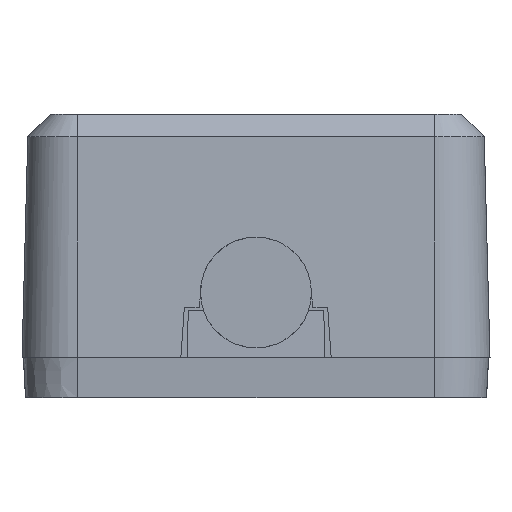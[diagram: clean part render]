
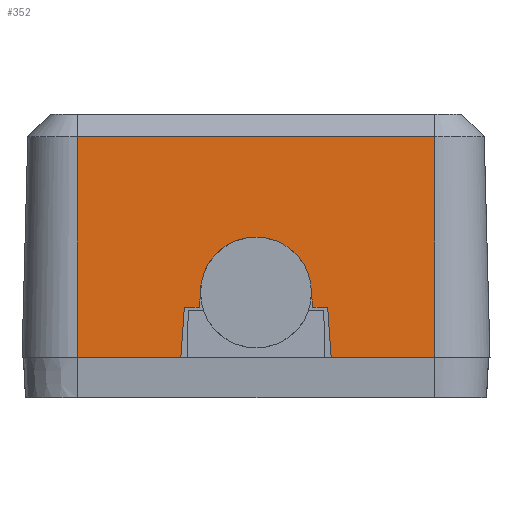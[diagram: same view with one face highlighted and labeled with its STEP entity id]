
A CAD part, left-side view. The second image highlights one B-rep face of the part: STEP entity #352.
In plain terms, the highlighted planar face has unit normal (-1, 0, 0.026).
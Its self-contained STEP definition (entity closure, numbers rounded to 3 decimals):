
#297=ELLIPSE('',#3891,2.051,2.05);
#352=ADVANCED_FACE('',(#705),#550,.F.);
#550=PLANE('',#3892);
#705=FACE_OUTER_BOUND('',#902,.T.);
#902=EDGE_LOOP('',(#1348,#1349,#1350,#1351,#1352,#1353,#1354,#1355,#1356,
#1357,#1358,#1359));
#1348=ORIENTED_EDGE('',*,*,#2686,.T.);
#1349=ORIENTED_EDGE('',*,*,#2687,.T.);
#1350=ORIENTED_EDGE('',*,*,#2688,.T.);
#1351=ORIENTED_EDGE('',*,*,#2580,.F.);
#1352=ORIENTED_EDGE('',*,*,#2689,.F.);
#1353=ORIENTED_EDGE('',*,*,#2690,.T.);
#1354=ORIENTED_EDGE('',*,*,#2691,.F.);
#1355=ORIENTED_EDGE('',*,*,#2692,.F.);
#1356=ORIENTED_EDGE('',*,*,#2693,.T.);
#1357=ORIENTED_EDGE('',*,*,#2694,.T.);
#1358=ORIENTED_EDGE('',*,*,#2695,.T.);
#1359=ORIENTED_EDGE('',*,*,#2576,.F.);
#2204=VERTEX_POINT('',#5243);
#2205=VERTEX_POINT('',#5245);
#2208=VERTEX_POINT('',#5251);
#2209=VERTEX_POINT('',#5253);
#2292=VERTEX_POINT('',#5501);
#2293=VERTEX_POINT('',#5530);
#2294=VERTEX_POINT('',#5533);
#2295=VERTEX_POINT('',#5535);
#2296=VERTEX_POINT('',#5537);
#2297=VERTEX_POINT('',#5539);
#2298=VERTEX_POINT('',#5541);
#2299=VERTEX_POINT('',#5543);
#2576=EDGE_CURVE('',#2204,#2205,#3088,.T.);
#2580=EDGE_CURVE('',#2208,#2209,#3092,.T.);
#2686=EDGE_CURVE('',#2204,#2292,#3185,.T.);
#2687=EDGE_CURVE('',#2292,#2293,#3186,.T.);
#2688=EDGE_CURVE('',#2293,#2209,#3187,.T.);
#2689=EDGE_CURVE('',#2294,#2208,#3188,.T.);
#2690=EDGE_CURVE('',#2294,#2295,#3189,.T.);
#2691=EDGE_CURVE('',#2296,#2295,#3190,.T.);
#2692=EDGE_CURVE('',#2297,#2296,#297,.T.);
#2693=EDGE_CURVE('',#2297,#2298,#3191,.T.);
#2694=EDGE_CURVE('',#2298,#2299,#3192,.T.);
#2695=EDGE_CURVE('',#2299,#2205,#3193,.T.);
#3088=LINE('',#5244,#3506);
#3092=LINE('',#5252,#3510);
#3185=LINE('',#5502,#3603);
#3186=LINE('',#5529,#3604);
#3187=LINE('',#5531,#3605);
#3188=LINE('',#5532,#3606);
#3189=LINE('',#5534,#3607);
#3190=LINE('',#5536,#3608);
#3191=LINE('',#5540,#3609);
#3192=LINE('',#5542,#3610);
#3193=LINE('',#5544,#3611);
#3506=VECTOR('',#4242,1.);
#3510=VECTOR('',#4246,1.);
#3603=VECTOR('',#4379,1.);
#3604=VECTOR('',#4380,1.);
#3605=VECTOR('',#4381,1.);
#3606=VECTOR('',#4382,1.);
#3607=VECTOR('',#4383,1.);
#3608=VECTOR('',#4384,1.);
#3609=VECTOR('',#4387,1.);
#3610=VECTOR('',#4388,1.);
#3611=VECTOR('',#4389,1.);
#3891=AXIS2_PLACEMENT_3D('',#5538,#4385,#4386);
#3892=AXIS2_PLACEMENT_3D('',#5545,#4390,#4391);
#4242=DIRECTION('',(0.,1.,0.));
#4246=DIRECTION('',(0.,1.,0.));
#4379=DIRECTION('',(0.026,0.,1.));
#4380=DIRECTION('',(0.,1.,0.));
#4381=DIRECTION('',(-0.026,0.,-1.));
#4382=DIRECTION('',(-0.026,0.07,-0.997));
#4383=DIRECTION('',(0.,-1.,0.));
#4384=DIRECTION('',(-0.026,0.087,-0.996));
#4385=DIRECTION('',(-1.,0.,0.026));
#4386=DIRECTION('',(0.026,0.,1.));
#4387=DIRECTION('',(-0.026,-0.087,-0.996));
#4388=DIRECTION('',(0.,-1.,0.));
#4389=DIRECTION('',(-0.026,-0.07,-0.997));
#4390=DIRECTION('',(1.,0.,-0.026));
#4391=DIRECTION('',(-0.026,0.,-1.));
#5243=CARTESIAN_POINT('',(-15.044,-196.214,8.035));
#5244=CARTESIAN_POINT('',(-15.044,-181.111,8.035));
#5245=CARTESIAN_POINT('',(-15.044,-192.39,8.035));
#5251=CARTESIAN_POINT('',(-15.044,-186.832,8.035));
#5252=CARTESIAN_POINT('',(-15.044,-181.111,8.035));
#5253=CARTESIAN_POINT('',(-15.044,-183.008,8.035));
#5501=CARTESIAN_POINT('',(-14.83,-196.214,16.199));
#5502=CARTESIAN_POINT('',(-14.992,-196.214,10.035));
#5529=CARTESIAN_POINT('',(-14.83,-183.794,16.199));
#5530=CARTESIAN_POINT('',(-14.83,-183.008,16.199));
#5531=CARTESIAN_POINT('',(-14.992,-183.008,10.035));
#5532=CARTESIAN_POINT('',(-14.994,-186.964,9.926));
#5533=CARTESIAN_POINT('',(-14.996,-186.961,9.885));
#5534=CARTESIAN_POINT('',(-14.996,-183.794,9.885));
#5535=CARTESIAN_POINT('',(-14.996,-187.513,9.885));
#5536=CARTESIAN_POINT('',(-15.,-187.498,9.711));
#5537=CARTESIAN_POINT('',(-14.981,-187.561,10.435));
#5538=CARTESIAN_POINT('',(-14.981,-189.611,10.435));
#5539=CARTESIAN_POINT('',(-14.981,-191.661,10.435));
#5540=CARTESIAN_POINT('',(-14.974,-191.636,10.721));
#5541=CARTESIAN_POINT('',(-14.996,-191.709,9.885));
#5542=CARTESIAN_POINT('',(-14.996,-183.794,9.885));
#5543=CARTESIAN_POINT('',(-14.996,-192.261,9.885));
#5544=CARTESIAN_POINT('',(-14.976,-192.209,10.623));
#5545=CARTESIAN_POINT('',(-14.992,-183.794,10.035));
